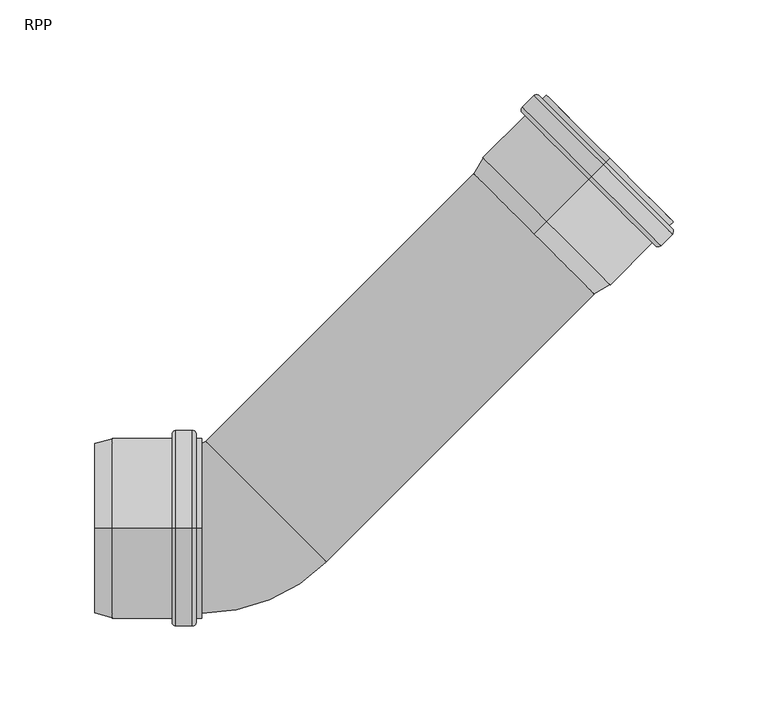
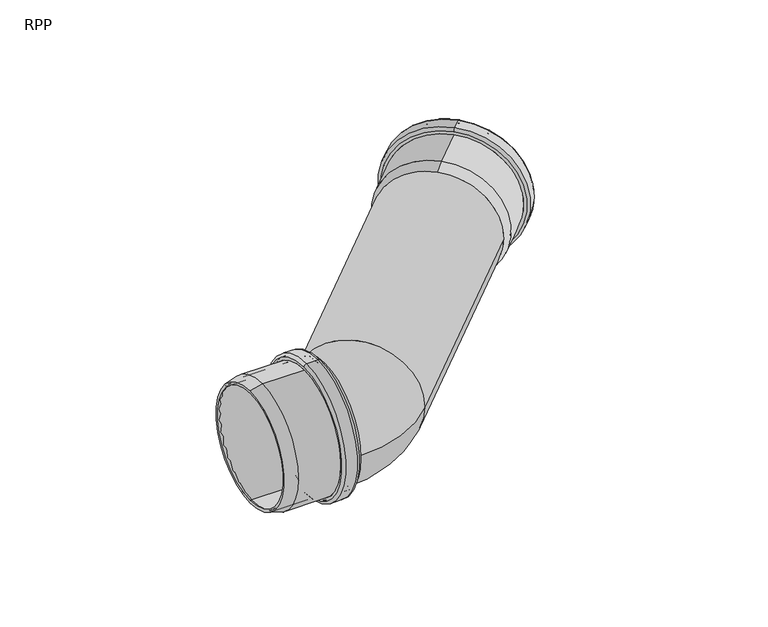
"""IFC4 building model written with IfcOpenShell, lengths in millimetres: pipe fitting geometry, RAUPIANO PLUS Deflection Bend : RPP."""

from ifc_helpers import new_model, si_unit, point, frame, origin, place, context, project, spatial, polyline, circle_curve, ellipse_curve, trimmed, source, transform, mapped, element, save
from ifc_brep_helpers import plane_surface, cylinder_surface, revolved_surface, advanced_brep


def rpp_1b942135(model_context):
    return source(origin(), model_context, "Body", "AdvancedBrep", [
        advanced_brep(
        [(-33.282251, 0.0, 45.3), (-33.282251, 0.0, -45.3), (-66.7624885, 0.0, -45.3), (-66.7624885, 0.0, 45.3), (-32.782251, 0.0, 49.7), (-32.782251, 0.0, -49.7), (-33.282251, 0.0, -49.2), (-33.282251, 0.0, 49.2), (-25.482251, 0.0, 49.7), (-25.482251, 0.0, -49.7), (-24.982251, 0.0, 49.2), (-24.982251, 0.0, -49.2), (-19.882251, 0.0, 45.3), (-19.882251, 0.0, -45.3), (-24.982251, 0.0, -45.3), (-24.982251, 0.0, 45.3), (-22.782251, 0.0, 47.5), (-22.782251, 0.0, -47.5), (-19.882251, 0.0, -47.5), (-19.882251, 0.0, 47.5), (-24.782251, 0.0, 51.9), (-24.782251, 0.0, -51.9), (-22.782251, 0.0, -49.9), (-22.782251, 0.0, 49.9), (-33.482251, 0.0, 51.9), (-33.482251, 0.0, -51.9), (-35.482251, 0.0, 49.9), (-35.482251, 0.0, -49.9), (-67.052124, 0.0, 47.5), (-67.052124, 0.0, -47.5), (-35.482251, 0.0, -47.5), (-35.482251, 0.0, 47.5), (-76.382251, 0.0, 45.0), (-76.382251, 0.0, -45.0), (-76.382251, 0.0, -42.7223924), (-76.382251, 0.0, 42.7223924)],
        [
            (0, 1, circle_curve(frame((-33.282251, 0.0, 0.0), z_axis=(1.0, 0.0, 0.0), x_axis=(0.0, 0.0, -1.0)), 45.3)),
            (1, 2),
            (2, 3, circle_curve(frame((-66.7624885, 0.0, 0.0), z_axis=(-1.0, 0.0, 0.0), x_axis=(0.0, 0.0, -1.0)), 45.3)),
            (3, 0),
            (4, 5, circle_curve(frame((-32.782251, 0.0, 0.0), z_axis=(1.0, 0.0, 0.0), x_axis=(0.0, 0.0, -1.0)), 49.7)),
            (5, 6, circle_curve(frame((-32.782251, 0.0, -49.2), z_axis=(0.0, 1.0, 0.0), x_axis=(0.0, 0.0, 1.0)), 0.5)),
            (6, 7, circle_curve(frame((-33.282251, 0.0, 0.0), z_axis=(-1.0, 0.0, 0.0), x_axis=(0.0, 0.0, -1.0)), 49.2)),
            (7, 4, circle_curve(frame((-32.782251, 0.0, 49.2), z_axis=(0.0, 1.0, 0.0), x_axis=(0.0, 0.0, -1.0)), 0.5)),
            (8, 9, circle_curve(frame((-25.482251, 0.0, 0.0), z_axis=(1.0, 0.0, 0.0), x_axis=(0.0, 0.0, -1.0)), 49.7)),
            (9, 5),
            (4, 8),
            (10, 11, circle_curve(frame((-24.982251, 0.0, 0.0), z_axis=(1.0, 0.0, 0.0), x_axis=(0.0, 0.0, -1.0)), 49.2)),
            (11, 9, circle_curve(frame((-25.482251, 0.0, -49.2), z_axis=(0.0, 1.0, 0.0), x_axis=(0.0, 0.0, 1.0)), 0.5)),
            (8, 10, circle_curve(frame((-25.482251, 0.0, 49.2), z_axis=(0.0, 1.0, 0.0), x_axis=(0.0, 0.0, -1.0)), 0.5)),
            (12, 13, circle_curve(frame((-19.882251, 0.0, 0.0), z_axis=(1.0, 0.0, 0.0), x_axis=(0.0, 0.0, -1.0)), 45.3)),
            (13, 14),
            (14, 15, circle_curve(frame((-24.982251, 0.0, 0.0), z_axis=(-1.0, 0.0, 0.0), x_axis=(0.0, 0.0, -1.0)), 45.3)),
            (15, 12),
            (16, 17, circle_curve(frame((-22.782251, 0.0, 0.0), z_axis=(1.0, 0.0, 0.0), x_axis=(0.0, 0.0, -1.0)), 47.5)),
            (17, 18),
            (18, 19, circle_curve(frame((-19.882251, 0.0, 0.0), z_axis=(-1.0, 0.0, 0.0), x_axis=(0.0, 0.0, -1.0)), 47.5)),
            (19, 16),
            (20, 21, circle_curve(frame((-24.782251, 0.0, 0.0), z_axis=(1.0, 0.0, 0.0), x_axis=(0.0, 0.0, -1.0)), 51.9)),
            (21, 22, circle_curve(frame((-24.782251, 0.0, -49.9), z_axis=(0.0, -1.0, 0.0), x_axis=(0.0, 0.0, 1.0)), 2.0)),
            (22, 23, circle_curve(frame((-22.782251, 0.0, 0.0), z_axis=(-1.0, 0.0, 0.0), x_axis=(0.0, 0.0, -1.0)), 49.9)),
            (23, 20, circle_curve(frame((-24.782251, 0.0, 49.9), z_axis=(0.0, -1.0, 0.0), x_axis=(0.0, 0.0, -1.0)), 2.0)),
            (24, 25, circle_curve(frame((-33.482251, 0.0, 0.0), z_axis=(1.0, 0.0, 0.0), x_axis=(0.0, 0.0, -1.0)), 51.9)),
            (25, 21),
            (20, 24),
            (26, 27, circle_curve(frame((-35.482251, 0.0, 0.0), z_axis=(1.0, 0.0, 0.0), x_axis=(0.0, 0.0, -1.0)), 49.9)),
            (27, 25, circle_curve(frame((-33.482251, 0.0, -49.9), z_axis=(0.0, -1.0, 0.0), x_axis=(0.0, 0.0, 1.0)), 2.0)),
            (24, 26, circle_curve(frame((-33.482251, 0.0, 49.9), z_axis=(0.0, -1.0, 0.0), x_axis=(0.0, 0.0, -1.0)), 2.0)),
            (28, 29, circle_curve(frame((-67.052124, 0.0, 0.0), z_axis=(1.0, 0.0, 0.0), x_axis=(0.0, 0.0, -1.0)), 47.5)),
            (29, 30),
            (30, 31, circle_curve(frame((-35.482251, 0.0, 0.0), z_axis=(-1.0, 0.0, 0.0), x_axis=(0.0, 0.0, -1.0)), 47.5)),
            (31, 28),
            (32, 33, circle_curve(frame((-76.382251, 0.0, 0.0), z_axis=(1.0, 0.0, 0.0), x_axis=(0.0, 0.0, -1.0)), 45.0)),
            (33, 29),
            (28, 32),
            (2, 34),
            (34, 35, circle_curve(frame((-76.382251, 0.0, 0.0), z_axis=(-1.0, 0.0, 0.0), x_axis=(0.0, 0.0, -1.0)), 42.7223924)),
            (35, 3),
            (1, 0, circle_curve(frame((-33.282251, 0.0, 0.0), z_axis=(1.0, 0.0, 0.0), x_axis=(0.0, 0.0, 1.0)), 45.3)),
            (3, 2, circle_curve(frame((-66.7624885, 0.0, 0.0), z_axis=(-1.0, 0.0, 0.0), x_axis=(0.0, 0.0, 1.0)), 45.3)),
            (6, 7, circle_curve(frame((-33.282251, 0.0, 0.0), z_axis=(1.0, 0.0, 0.0), x_axis=(0.0, 0.0, 1.0)), 49.2)),
            (5, 4, circle_curve(frame((-32.782251, 0.0, 0.0), z_axis=(1.0, 0.0, 0.0), x_axis=(0.0, 0.0, 1.0)), 49.7)),
            (9, 8, circle_curve(frame((-25.482251, 0.0, 0.0), z_axis=(1.0, 0.0, 0.0), x_axis=(0.0, 0.0, 1.0)), 49.7)),
            (11, 10, circle_curve(frame((-24.982251, 0.0, 0.0), z_axis=(1.0, 0.0, 0.0), x_axis=(0.0, 0.0, 1.0)), 49.2)),
            (14, 15, circle_curve(frame((-24.982251, 0.0, 0.0), z_axis=(1.0, 0.0, 0.0), x_axis=(0.0, 0.0, 1.0)), 45.3)),
            (13, 12, circle_curve(frame((-19.882251, 0.0, 0.0), z_axis=(1.0, 0.0, 0.0), x_axis=(0.0, 0.0, 1.0)), 45.3)),
            (18, 19, circle_curve(frame((-19.882251, 0.0, 0.0), z_axis=(1.0, 0.0, 0.0), x_axis=(0.0, 0.0, 1.0)), 47.5)),
            (17, 16, circle_curve(frame((-22.782251, 0.0, 0.0), z_axis=(1.0, 0.0, 0.0), x_axis=(0.0, 0.0, 1.0)), 47.5)),
            (22, 23, circle_curve(frame((-22.782251, 0.0, 0.0), z_axis=(1.0, 0.0, 0.0), x_axis=(0.0, 0.0, 1.0)), 49.9)),
            (21, 20, circle_curve(frame((-24.782251, 0.0, 0.0), z_axis=(1.0, 0.0, 0.0), x_axis=(0.0, 0.0, 1.0)), 51.9)),
            (25, 24, circle_curve(frame((-33.482251, 0.0, 0.0), z_axis=(1.0, 0.0, 0.0), x_axis=(0.0, 0.0, 1.0)), 51.9)),
            (27, 26, circle_curve(frame((-35.482251, 0.0, 0.0), z_axis=(1.0, 0.0, 0.0), x_axis=(0.0, 0.0, 1.0)), 49.9)),
            (30, 31, circle_curve(frame((-35.482251, 0.0, 0.0), z_axis=(1.0, 0.0, 0.0), x_axis=(0.0, 0.0, 1.0)), 47.5)),
            (29, 28, circle_curve(frame((-67.052124, 0.0, 0.0), z_axis=(1.0, 0.0, 0.0), x_axis=(0.0, 0.0, 1.0)), 47.5)),
            (33, 32, circle_curve(frame((-76.382251, 0.0, 0.0), z_axis=(1.0, 0.0, 0.0), x_axis=(0.0, 0.0, 1.0)), 45.0)),
            (34, 35, circle_curve(frame((-76.382251, 0.0, 0.0), z_axis=(1.0, 0.0, 0.0), x_axis=(0.0, 0.0, 1.0)), 42.7223924)),
        ],
        [
            revolved_surface(polyline([(-66.7624885, 0.0, -45.3), (-33.282251, 0.0, -45.3)]), (-76.382251, 0.0, 0.0), (-1.0, 0.0, 0.0)),
            revolved_surface(trimmed(ellipse_curve(frame((-32.782251, 0.0, -49.2), z_axis=(0.0, -1.0, 0.0), x_axis=(0.0, 0.0, 1.0)), 0.5, 0.5), [point((-33.282251, 0.0, -49.2))], [point((-32.782251, 0.0, -49.7))], True, "CARTESIAN"), (-76.382251, 0.0, 0.0), (-1.0, 0.0, 0.0)),
            revolved_surface(polyline([(-32.782251, 0.0, -49.7), (-25.482251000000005, 0.0, -49.7)]), (-76.382251, 0.0, 0.0), (-1.0, 0.0, 0.0)),
            revolved_surface(trimmed(ellipse_curve(frame((-25.482251, 0.0, -49.2), z_axis=(0.0, -1.0, 0.0), x_axis=(0.0, 0.0, 1.0)), 0.5, 0.5), [point((-25.482251, 0.0, -49.7))], [point((-24.982251, 0.0, -49.2))], True, "CARTESIAN"), (-76.382251, 0.0, 0.0), (-1.0, 0.0, 0.0)),
            revolved_surface(polyline([(-24.982251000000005, 0.0, -45.3), (-19.882250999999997, 0.0, -45.3)]), (-76.382251, 0.0, 0.0), (-1.0, 0.0, 0.0)),
            cylinder_surface(frame((-76.382251, 0.0, 0.0), z_axis=(-1.0, 0.0, 0.0), x_axis=(0.0, 0.0, -1.0)), 47.5),
            revolved_surface(trimmed(ellipse_curve(frame((-24.782251, 0.0, -49.9), z_axis=(0.0, 1.0, 0.0), x_axis=(0.0, 0.0, 1.0)), 2.0, 2.0), [point((-22.782251, 0.0, -49.9))], [point((-24.782251, 0.0, -51.9))], True, "CARTESIAN"), (-76.382251, 0.0, 0.0), (-1.0, 0.0, 0.0)),
            cylinder_surface(frame((-76.382251, 0.0, 0.0), z_axis=(-1.0, 0.0, 0.0), x_axis=(0.0, 0.0, -1.0)), 51.9),
            revolved_surface(trimmed(ellipse_curve(frame((-33.482251, 0.0, -49.9), z_axis=(0.0, 1.0, 0.0), x_axis=(0.0, 0.0, 1.0)), 2.0, 2.0), [point((-33.482251, 0.0, -51.9))], [point((-35.482251, 0.0, -49.9))], True, "CARTESIAN"), (-76.382251, 0.0, 0.0), (-1.0, 0.0, 0.0)),
            revolved_surface(polyline([(-67.052124, 0.0, -47.5), (-76.382251, 0.0, -45.0)]), (-76.382251, 0.0, 0.0), (-1.0, 0.0, 0.0)),
            revolved_surface(polyline([(-76.382251, 0.0, -42.7223924), (-66.7624885, 0.0, -45.3)]), (-76.382251, 0.0, 0.0), (-1.0, 0.0, 0.0)),
            revolved_surface(polyline([(-66.7624885, 0.0, 45.3), (-33.282251, 0.0, 45.3)]), (-76.382251, 0.0, 0.0), (-1.0, 0.0, 0.0)),
            plane_surface(frame((-33.282251, 0.0, 0.0), z_axis=(1.0, 0.0, 0.0), x_axis=(0.0, 0.0, 1.0))),
            revolved_surface(trimmed(ellipse_curve(frame((-32.782251, 0.0, 49.2), z_axis=(0.0, 1.0, 0.0), x_axis=(0.0, 0.0, -1.0)), 0.5, 0.5), [point((-33.282251, 0.0, 49.2))], [point((-32.782251, 0.0, 49.7))], True, "CARTESIAN"), (-76.382251, 0.0, 0.0), (-1.0, 0.0, 0.0)),
            revolved_surface(polyline([(-32.782251, 0.0, 49.7), (-25.482251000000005, 0.0, 49.7)]), (-76.382251, 0.0, 0.0), (-1.0, 0.0, 0.0)),
            revolved_surface(trimmed(ellipse_curve(frame((-25.482251, 0.0, 49.2), z_axis=(0.0, 1.0, 0.0), x_axis=(0.0, 0.0, -1.0)), 0.5, 0.5), [point((-25.482251, 0.0, 49.7))], [point((-24.982251, 0.0, 49.2))], True, "CARTESIAN"), (-76.382251, 0.0, 0.0), (-1.0, 0.0, 0.0)),
            plane_surface(frame((-24.982251, 0.0, 0.0), z_axis=(-1.0, 0.0, 0.0), x_axis=(0.0, 0.0, 1.0))),
            revolved_surface(polyline([(-24.982251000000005, 0.0, 45.3), (-19.882250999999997, 0.0, 45.3)]), (-76.382251, 0.0, 0.0), (-1.0, 0.0, 0.0)),
            plane_surface(frame((-19.882251, 0.0, 0.0), z_axis=(1.0, 0.0, 0.0), x_axis=(0.0, 0.0, 1.0))),
            cylinder_surface(frame((-76.382251, 0.0, 0.0), z_axis=(-1.0, 0.0, 0.0), x_axis=(0.0, 0.0, 1.0)), 47.5),
            plane_surface(frame((-22.782251, 0.0, 0.0), z_axis=(1.0, 0.0, 0.0), x_axis=(0.0, 0.0, 1.0))),
            revolved_surface(trimmed(ellipse_curve(frame((-24.782251, 0.0, 49.9), z_axis=(0.0, -1.0, 0.0), x_axis=(0.0, 0.0, -1.0)), 2.0, 2.0), [point((-22.782251, 0.0, 49.9))], [point((-24.782251, 0.0, 51.9))], True, "CARTESIAN"), (-76.382251, 0.0, 0.0), (-1.0, 0.0, 0.0)),
            cylinder_surface(frame((-76.382251, 0.0, 0.0), z_axis=(-1.0, 0.0, 0.0), x_axis=(0.0, 0.0, 1.0)), 51.9),
            revolved_surface(trimmed(ellipse_curve(frame((-33.482251, 0.0, 49.9), z_axis=(0.0, -1.0, 0.0), x_axis=(0.0, 0.0, -1.0)), 2.0, 2.0), [point((-33.482251, 0.0, 51.9))], [point((-35.482251, 0.0, 49.9))], True, "CARTESIAN"), (-76.382251, 0.0, 0.0), (-1.0, 0.0, 0.0)),
            plane_surface(frame((-35.482251, 0.0, 0.0), z_axis=(-1.0, 0.0, 0.0), x_axis=(0.0, 0.0, 1.0))),
            revolved_surface(polyline([(-67.052124, 0.0, 47.5), (-76.382251, 0.0, 45.0)]), (-76.382251, 0.0, 0.0), (-1.0, 0.0, 0.0)),
            plane_surface(frame((-76.382251, 0.0, 0.0), z_axis=(-1.0, 0.0, 0.0), x_axis=(0.0, 0.0, 1.0))),
            revolved_surface(polyline([(-76.382251, 0.0, 42.7223924), (-66.7624885, 0.0, 45.3)]), (-76.382251, 0.0, 0.0), (-1.0, 0.0, 0.0)),
        ],
        [
            (0, [[1, 2, 3, 4]]),
            (1, [[5, 6, 7, 8]]),
            (2, [[9, 10, -5, 11]]),
            (3, [[12, 13, -9, 14]]),
            (4, [[15, 16, 17, 18]]),
            (5, [[19, 20, 21, 22]]),
            (6, [[23, 24, 25, 26]]),
            (7, [[27, 28, -23, 29]]),
            (8, [[30, 31, -27, 32]]),
            (5, [[33, 34, 35, 36]]),
            (9, [[37, 38, -33, 39]]),
            (10, [[-3, 40, 41, 42]]),
            (11, [[43, -4, 44, -2]]),
            (12, [[45, -7], [-43, -1]]),
            (13, [[46, -8, -45, -6]]),
            (14, [[47, -11, -46, -10]]),
            (15, [[48, -14, -47, -13]]),
            (16, [[-48, -12], [49, -17]]),
            (17, [[50, -18, -49, -16]]),
            (18, [[51, -21], [-50, -15]]),
            (19, [[52, -22, -51, -20]]),
            (20, [[53, -25], [-52, -19]]),
            (21, [[54, -26, -53, -24]]),
            (22, [[55, -29, -54, -28]]),
            (23, [[56, -32, -55, -31]]),
            (24, [[-56, -30], [57, -35]]),
            (19, [[58, -36, -57, -34]]),
            (25, [[59, -39, -58, -38]]),
            (26, [[-59, -37], [60, -41]]),
            (27, [[-44, -42, -60, -40]]),
        ],
    ),
        advanced_brep(
        [(-19.882251, 0.0, -42.8), (-76.382251, 0.0, -42.8), (-76.382251, 0.0, 42.8), (-19.882251, 0.0, 42.8), (-19.882251, -42.8, 0.0), (-72.6502002, 0.0, 45.0), (-72.6502002, 0.0, -45.0), (-19.882251, 0.0, -45.0), (-19.882251, -45.0, 0.0), (-19.882251, 0.0, 45.0), (-76.382251, 0.0, 44.0), (-76.382251, 0.0, -44.0), (-19.882251, 42.8, 0.0), (-19.882251, 45.0, 0.0), (-16.2052957, 44.3230447, 0.0), (44.3230447, -16.2052957, 0.0), (-17.7609307, 45.8786797, 0.0), (45.8786797, -17.7609307, 0.0), (14.0588745, 14.0588745, 45.0), (14.0588745, 14.0588745, -45.0), (187.3000359, 123.6604256, 0.0), (123.6604256, 187.3000359, 0.0), (185.744401, 125.2160605, 0.0), (125.2160605, 185.744401, 0.0)],
        [
            (0, 1),
            (1, 2, circle_curve(frame((-76.382251, 0.0, 0.0), z_axis=(-1.0, 0.0, 0.0), x_axis=(0.0, 0.0, -1.0)), 42.8)),
            (2, 3),
            (3, 4, circle_curve(frame((-19.882251, 0.0, 0.0), z_axis=(1.0, 0.0, 0.0), x_axis=(0.0, 0.0, -1.0)), 42.8)),
            (4, 0, circle_curve(frame((-19.882251, 0.0, 0.0), z_axis=(1.0, 0.0, 0.0), x_axis=(0.0, 0.0, -1.0)), 42.8)),
            (5, 6, circle_curve(frame((-72.6502002, 0.0, 0.0), z_axis=(1.0, 0.0, 0.0), x_axis=(0.0, 0.0, -1.0)), 45.0)),
            (6, 7),
            (7, 8, circle_curve(frame((-19.882251, 0.0, 0.0), z_axis=(-1.0, 0.0, 0.0), x_axis=(0.0, 0.0, -1.0)), 45.0)),
            (8, 9, circle_curve(frame((-19.882251, 0.0, 0.0), z_axis=(-1.0, 0.0, 0.0), x_axis=(0.0, 0.0, -1.0)), 45.0)),
            (9, 5),
            (5, 10),
            (10, 11, circle_curve(frame((-76.382251, 0.0, 0.0), z_axis=(1.0, 0.0, 0.0), x_axis=(0.0, 0.0, -1.0)), 44.0)),
            (11, 6),
            (0, 12, circle_curve(frame((-19.882251, 0.0, 0.0), z_axis=(1.0, 0.0, 0.0), x_axis=(0.0, 0.0, 1.0)), 42.8)),
            (12, 3, circle_curve(frame((-19.882251, 0.0, 0.0), z_axis=(1.0, 0.0, 0.0), x_axis=(0.0, 0.0, 1.0)), 42.8)),
            (2, 1, circle_curve(frame((-76.382251, 0.0, 0.0), z_axis=(-1.0, 0.0, 0.0), x_axis=(0.0, 0.0, 1.0)), 42.8)),
            (6, 5, circle_curve(frame((-72.6502002, 0.0, 0.0), z_axis=(1.0, 0.0, 0.0), x_axis=(0.0, 0.0, 1.0)), 45.0)),
            (9, 13, circle_curve(frame((-19.882251, 0.0, 0.0), z_axis=(-1.0, 0.0, 0.0), x_axis=(0.0, 0.0, 1.0)), 45.0)),
            (13, 7, circle_curve(frame((-19.882251, 0.0, 0.0), z_axis=(-1.0, 0.0, 0.0), x_axis=(0.0, 0.0, 1.0)), 45.0)),
            (11, 10, circle_curve(frame((-76.382251, 0.0, 0.0), z_axis=(1.0, 0.0, 0.0), x_axis=(0.0, 0.0, 1.0)), 44.0)),
            (14, 12, circle_curve(frame((-19.882251, 48.0, 0.0), z_axis=(0.0, 0.0, -1.0), x_axis=(0.0, -1.0, 0.0)), 5.2)),
            (4, 15, circle_curve(frame((-19.882251, 48.0, 0.0), z_axis=(0.0, 0.0, 1.0), x_axis=(0.0, -1.0, 0.0)), 90.8)),
            (15, 14, circle_curve(frame((14.0588745, 14.0588745, 0.0), z_axis=(0.7071067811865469, 0.7071067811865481, 0.0), x_axis=(-0.7071067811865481, 0.7071067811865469, 0.0)), 42.8)),
            (14, 15, circle_curve(frame((14.0588745, 14.0588745, 0.0), z_axis=(0.7071067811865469, 0.7071067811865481, 0.0), x_axis=(-0.7071067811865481, 0.7071067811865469, 0.0)), 42.8)),
            (16, 13, circle_curve(frame((-19.882251, 48.0, 0.0), z_axis=(0.0, 0.0, -1.0), x_axis=(0.0, -1.0, 0.0)), 3.0)),
            (8, 17, circle_curve(frame((-19.882251, 48.0, 0.0), z_axis=(0.0, 0.0, 1.0), x_axis=(0.0, -1.0, 0.0)), 93.0)),
            (17, 18, circle_curve(frame((14.0588745, 14.0588745, 0.0), z_axis=(-0.7071067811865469, -0.7071067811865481, 0.0), x_axis=(-0.7071067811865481, 0.7071067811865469, 0.0)), 45.0)),
            (18, 16, circle_curve(frame((14.0588745, 14.0588745, 0.0), z_axis=(-0.7071067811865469, -0.7071067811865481, 0.0), x_axis=(-0.7071067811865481, 0.7071067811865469, 0.0)), 45.0)),
            (16, 19, circle_curve(frame((14.0588745, 14.0588745, 0.0), z_axis=(-0.7071067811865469, -0.7071067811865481, 0.0), x_axis=(-0.7071067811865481, 0.7071067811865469, 0.0)), 45.0)),
            (19, 17, circle_curve(frame((14.0588745, 14.0588745, 0.0), z_axis=(-0.707106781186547, -0.707106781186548, 0.0), x_axis=(-0.707106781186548, 0.707106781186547, 0.0)), 45.0)),
            (20, 21, circle_curve(frame((155.4802307, 155.4802307, 0.0), z_axis=(0.707106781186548, 0.707106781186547, 0.0), x_axis=(-0.707106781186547, 0.707106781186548, 0.0)), 45.0)),
            (21, 20, circle_curve(frame((155.4802307, 155.4802307, 0.0), z_axis=(0.707106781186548, 0.707106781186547, 0.0), x_axis=(-0.707106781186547, 0.707106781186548, 0.0)), 45.0)),
            (22, 23, circle_curve(frame((155.4802307, 155.4802307, 0.0), z_axis=(-0.707106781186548, -0.707106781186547, 0.0), x_axis=(-0.707106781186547, 0.707106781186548, 0.0)), 42.8)),
            (23, 22, circle_curve(frame((155.4802307, 155.4802307, 0.0), z_axis=(-0.707106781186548, -0.707106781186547, 0.0), x_axis=(-0.707106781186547, 0.707106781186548, 0.0)), 42.8)),
            (23, 14),
            (15, 22),
            (21, 16),
            (17, 20),
        ],
        [
            revolved_surface(polyline([(-76.382251, 0.0, -42.8), (-19.882251, 0.0, -42.8)]), (-19.882251, 0.0, 0.0), (-1.0, 0.0, 0.0)),
            cylinder_surface(frame((-19.882251, 0.0, 0.0), z_axis=(-1.0, 0.0, 0.0), x_axis=(0.0, 0.0, -1.0)), 45.0),
            revolved_surface(polyline([(-72.6502002, 0.0, -45.0), (-76.382251, 0.0, -44.0)]), (-19.882251, 0.0, 0.0), (-1.0, 0.0, 0.0)),
            revolved_surface(polyline([(-76.382251, 0.0, 42.8), (-19.882251, 0.0, 42.8)]), (-19.882251, 0.0, 0.0), (-1.0, 0.0, 0.0)),
            cylinder_surface(frame((-19.882251, 0.0, 0.0), z_axis=(-1.0, 0.0, 0.0), x_axis=(0.0, 0.0, 1.0)), 45.0),
            revolved_surface(polyline([(-72.6502002, 0.0, 45.0), (-76.382251, 0.0, 44.0)]), (-19.882251, 0.0, 0.0), (-1.0, 0.0, 0.0)),
            plane_surface(frame((-76.382251, 0.0, 0.0), z_axis=(-1.0, 0.0, 0.0), x_axis=(0.0, 0.0, 1.0))),
            revolved_surface(trimmed(ellipse_curve(frame((-19.882251, 0.0, 0.0), z_axis=(1.0, 0.0, 0.0), x_axis=(0.0, 1.0, 0.0)), 42.8, 42.8), [point((-19.882251, -42.8, 0.0))], [point((-19.882251, 42.8, 0.0))], True, "CARTESIAN"), (-19.882251, 48.0, 0.0), (0.0, 0.0, 1.0)),
            revolved_surface(trimmed(ellipse_curve(frame((-19.882251, 0.0, 0.0), z_axis=(1.0, 0.0, 0.0), x_axis=(0.0, 1.0, 0.0)), 42.8, 42.8), [point((-19.882251, 42.8, 0.0))], [point((-19.882251, -42.8, 0.0))], True, "CARTESIAN"), (-19.882251, 48.0, 0.0), (0.0, 0.0, 1.0)),
            revolved_surface(trimmed(ellipse_curve(frame((-19.882251, 0.0, 0.0), z_axis=(-1.0, 0.0, 0.0), x_axis=(0.0, 1.0, 0.0)), 45.0, 45.0), [point((-19.882251, -45.0, 0.0))], [point((-19.882251, 45.0, 0.0))], True, "CARTESIAN"), (-19.882251, 48.0, 0.0), (0.0, 0.0, 1.0)),
            revolved_surface(trimmed(ellipse_curve(frame((-19.882251, 0.0, 0.0), z_axis=(-1.0, 0.0, 0.0), x_axis=(0.0, 1.0, 0.0)), 45.0, 45.0), [point((-19.882251, 45.0, 0.0))], [point((-19.882251, -45.0, 0.0))], True, "CARTESIAN"), (-19.882251, 48.0, 0.0), (0.0, 0.0, 1.0)),
            plane_surface(frame((155.4802307, 155.4802307, 0.0), z_axis=(0.707106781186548, 0.707106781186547, 0.0), x_axis=(0.0, 0.0, 1.0))),
            revolved_surface(polyline([(125.21606051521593, 185.74440098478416, 0.0), (-16.205295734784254, 44.323044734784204, 0.0)]), (14.0588745, 14.0588745, 0.0), (0.707106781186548, 0.707106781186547, 0.0)),
            cylinder_surface(frame((14.0588745, 14.0588745, 0.0), z_axis=(-0.707106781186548, -0.707106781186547, 0.0), x_axis=(-0.707106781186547, 0.707106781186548, 0.0)), 45.0),
        ],
        [
            (0, [[1, 2, 3, 4, 5]]),
            (1, [[6, 7, 8, 9, 10]]),
            (2, [[-6, 11, 12, 13]]),
            (3, [[-1, 14, 15, -3, 16]]),
            (4, [[-7, 17, -10, 18, 19]]),
            (5, [[-13, 20, -11, -17]]),
            (6, [[-12, -20], [-2, -16]]),
            (7, [[21, -14, -5, 22, 23]]),
            (8, [[-21, 24, -22, -4, -15]]),
            (9, [[25, -18, -9, 26, 27, 28]]),
            (10, [[-25, 29, 30, -26, -8, -19]]),
            (11, [[31, 32], [33, 34]]),
            (12, [[-34, 35, -23, 36]]),
            (12, [[-33, -36, -24, -35]]),
            (13, [[-32, 37, -28, -27, 38]]),
            (13, [[-31, -38, -30, -29, -37]]),
        ],
    ),
        advanced_brep(
        [(155.4802307, 155.4802307, 42.7223924), (155.4802307, 155.4802307, -42.7223924), (162.28243, 162.28243, -45.3), (162.28243, 162.28243, 45.3), (162.0776268, 162.0776268, 47.5), (162.0776268, 162.0776268, -47.5), (155.4802307, 155.4802307, -45.0), (155.4802307, 155.4802307, 45.0), (184.4008981, 184.4008981, 47.5), (184.4008981, 184.4008981, -47.5), (185.8151117, 185.8151117, 51.9), (185.8151117, 185.8151117, -51.9), (184.4008981, 184.4008981, -49.9), (184.4008981, 184.4008981, 49.9), (191.9669406, 191.9669406, 51.9), (191.9669406, 191.9669406, -51.9), (193.3811542, 193.3811542, 49.9), (193.3811542, 193.3811542, -49.9), (195.4317639, 195.4317639, 47.5), (195.4317639, 195.4317639, -47.5), (193.3811542, 193.3811542, -47.5), (193.3811542, 193.3811542, 47.5), (191.8255193, 191.8255193, 45.3), (191.8255193, 191.8255193, -45.3), (195.4317639, 195.4317639, -45.3), (195.4317639, 195.4317639, 45.3), (191.4719659, 191.4719659, 49.7), (191.4719659, 191.4719659, -49.7), (191.8255193, 191.8255193, -49.2), (191.8255193, 191.8255193, 49.2), (186.3100864, 186.3100864, 49.7), (186.3100864, 186.3100864, -49.7), (185.956533, 185.956533, 49.2), (185.956533, 185.956533, -49.2), (185.956533, 185.956533, -45.3), (185.956533, 185.956533, 45.3)],
        [
            (0, 1, circle_curve(frame((155.4802307, 155.4802307, 0.0), z_axis=(-0.7071067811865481, -0.707106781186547, 0.0), x_axis=(0.0, 0.0, -1.0)), 42.7223924)),
            (1, 2),
            (2, 3, circle_curve(frame((162.28243, 162.28243, 0.0), z_axis=(0.7071067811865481, 0.707106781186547, 0.0), x_axis=(0.0, 0.0, -1.0)), 45.3)),
            (3, 0),
            (4, 5, circle_curve(frame((162.0776268, 162.0776268, 0.0), z_axis=(-0.7071067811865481, -0.707106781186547, 0.0), x_axis=(0.0, 0.0, -1.0)), 47.5)),
            (5, 6),
            (6, 7, circle_curve(frame((155.4802307, 155.4802307, 0.0), z_axis=(0.7071067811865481, 0.707106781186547, 0.0), x_axis=(0.0, 0.0, -1.0)), 45.0)),
            (7, 4),
            (8, 9, circle_curve(frame((184.4008981, 184.4008981, 0.0), z_axis=(-0.7071067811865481, -0.707106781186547, 0.0), x_axis=(0.0, 0.0, -1.0)), 47.5)),
            (9, 5),
            (4, 8),
            (10, 11, circle_curve(frame((185.8151117, 185.8151117, 0.0), z_axis=(-0.7071067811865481, -0.707106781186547, 0.0), x_axis=(0.0, 0.0, -1.0)), 51.9)),
            (11, 12, circle_curve(frame((185.8151117, 185.8151117, -49.9), z_axis=(-0.7071067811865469, 0.7071067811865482, 0.0), x_axis=(0.0, 0.0, 1.0)), 2.0)),
            (12, 13, circle_curve(frame((184.4008981, 184.4008981, 0.0), z_axis=(0.7071067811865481, 0.707106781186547, 0.0), x_axis=(0.0, 0.0, -1.0)), 49.9)),
            (13, 10, circle_curve(frame((185.8151117, 185.8151117, 49.9), z_axis=(-0.7071067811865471, 0.707106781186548, 0.0), x_axis=(0.0, 0.0, -1.0)), 2.0)),
            (14, 15, circle_curve(frame((191.9669406, 191.9669406, 0.0), z_axis=(-0.7071067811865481, -0.707106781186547, 0.0), x_axis=(0.0, 0.0, -1.0)), 51.9)),
            (15, 11),
            (10, 14),
            (16, 17, circle_curve(frame((193.3811542, 193.3811542, 0.0), z_axis=(-0.7071067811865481, -0.707106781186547, 0.0), x_axis=(0.0, 0.0, -1.0)), 49.9)),
            (17, 15, circle_curve(frame((191.9669406, 191.9669406, -49.9), z_axis=(-0.7071067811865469, 0.7071067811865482, 0.0), x_axis=(0.0, 0.0, 1.0)), 2.0)),
            (14, 16, circle_curve(frame((191.9669406, 191.9669406, 49.9), z_axis=(-0.7071067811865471, 0.707106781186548, 0.0), x_axis=(0.0, 0.0, -1.0)), 2.0)),
            (18, 19, circle_curve(frame((195.4317639, 195.4317639, 0.0), z_axis=(-0.7071067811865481, -0.707106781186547, 0.0), x_axis=(0.0, 0.0, -1.0)), 47.5)),
            (19, 20),
            (20, 21, circle_curve(frame((193.3811542, 193.3811542, 0.0), z_axis=(0.7071067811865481, 0.707106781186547, 0.0), x_axis=(0.0, 0.0, -1.0)), 47.5)),
            (21, 18),
            (22, 23, circle_curve(frame((191.8255193, 191.8255193, 0.0), z_axis=(-0.7071067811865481, -0.707106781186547, 0.0), x_axis=(0.0, 0.0, -1.0)), 45.3)),
            (23, 24),
            (24, 25, circle_curve(frame((195.4317639, 195.4317639, 0.0), z_axis=(0.7071067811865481, 0.707106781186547, 0.0), x_axis=(0.0, 0.0, -1.0)), 45.3)),
            (25, 22),
            (26, 27, circle_curve(frame((191.4719659, 191.4719659, 0.0), z_axis=(-0.7071067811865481, -0.707106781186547, 0.0), x_axis=(0.0, 0.0, -1.0)), 49.7)),
            (27, 28, circle_curve(frame((191.4719659, 191.4719659, -49.2), z_axis=(0.7071067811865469, -0.7071067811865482, 0.0), x_axis=(0.0, 0.0, 1.0)), 0.5)),
            (28, 29, circle_curve(frame((191.8255193, 191.8255193, 0.0), z_axis=(0.7071067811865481, 0.707106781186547, 0.0), x_axis=(0.0, 0.0, -1.0)), 49.2)),
            (29, 26, circle_curve(frame((191.4719659, 191.4719659, 49.2), z_axis=(0.7071067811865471, -0.707106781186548, 0.0), x_axis=(0.0, 0.0, -1.0)), 0.5)),
            (30, 31, circle_curve(frame((186.3100864, 186.3100864, 0.0), z_axis=(-0.7071067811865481, -0.707106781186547, 0.0), x_axis=(0.0, 0.0, -1.0)), 49.7)),
            (31, 27),
            (26, 30),
            (32, 33, circle_curve(frame((185.956533, 185.956533, 0.0), z_axis=(-0.7071067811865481, -0.707106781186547, 0.0), x_axis=(0.0, 0.0, -1.0)), 49.2)),
            (33, 31, circle_curve(frame((186.3100864, 186.3100864, -49.2), z_axis=(0.7071067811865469, -0.7071067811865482, 0.0), x_axis=(0.0, 0.0, 1.0)), 0.5)),
            (30, 32, circle_curve(frame((186.3100864, 186.3100864, 49.2), z_axis=(0.7071067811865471, -0.707106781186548, 0.0), x_axis=(0.0, 0.0, -1.0)), 0.5)),
            (2, 34),
            (34, 35, circle_curve(frame((185.956533, 185.956533, 0.0), z_axis=(0.7071067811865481, 0.707106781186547, 0.0), x_axis=(0.0, 0.0, -1.0)), 45.3)),
            (35, 3),
            (1, 0, circle_curve(frame((155.4802307, 155.4802307, 0.0), z_axis=(-0.7071067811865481, -0.707106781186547, 0.0), x_axis=(0.0, 0.0, 1.0)), 42.7223924)),
            (3, 2, circle_curve(frame((162.28243, 162.28243, 0.0), z_axis=(0.7071067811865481, 0.707106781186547, 0.0), x_axis=(0.0, 0.0, 1.0)), 45.3)),
            (6, 7, circle_curve(frame((155.4802307, 155.4802307, 0.0), z_axis=(-0.7071067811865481, -0.707106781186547, 0.0), x_axis=(0.0, 0.0, 1.0)), 45.0)),
            (5, 4, circle_curve(frame((162.0776268, 162.0776268, 0.0), z_axis=(-0.7071067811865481, -0.707106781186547, 0.0), x_axis=(0.0, 0.0, 1.0)), 47.5)),
            (9, 8, circle_curve(frame((184.4008981, 184.4008981, 0.0), z_axis=(-0.7071067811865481, -0.707106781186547, 0.0), x_axis=(0.0, 0.0, 1.0)), 47.5)),
            (12, 13, circle_curve(frame((184.4008981, 184.4008981, 0.0), z_axis=(-0.7071067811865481, -0.707106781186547, 0.0), x_axis=(0.0, 0.0, 1.0)), 49.9)),
            (11, 10, circle_curve(frame((185.8151117, 185.8151117, 0.0), z_axis=(-0.7071067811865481, -0.707106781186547, 0.0), x_axis=(0.0, 0.0, 1.0)), 51.9)),
            (15, 14, circle_curve(frame((191.9669406, 191.9669406, 0.0), z_axis=(-0.7071067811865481, -0.707106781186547, 0.0), x_axis=(0.0, 0.0, 1.0)), 51.9)),
            (17, 16, circle_curve(frame((193.3811542, 193.3811542, 0.0), z_axis=(-0.7071067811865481, -0.707106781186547, 0.0), x_axis=(0.0, 0.0, 1.0)), 49.9)),
            (20, 21, circle_curve(frame((193.3811542, 193.3811542, 0.0), z_axis=(-0.7071067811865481, -0.707106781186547, 0.0), x_axis=(0.0, 0.0, 1.0)), 47.5)),
            (19, 18, circle_curve(frame((195.4317639, 195.4317639, 0.0), z_axis=(-0.7071067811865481, -0.707106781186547, 0.0), x_axis=(0.0, 0.0, 1.0)), 47.5)),
            (24, 25, circle_curve(frame((195.4317639, 195.4317639, 0.0), z_axis=(-0.7071067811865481, -0.707106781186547, 0.0), x_axis=(0.0, 0.0, 1.0)), 45.3)),
            (23, 22, circle_curve(frame((191.8255193, 191.8255193, 0.0), z_axis=(-0.7071067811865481, -0.707106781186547, 0.0), x_axis=(0.0, 0.0, 1.0)), 45.3)),
            (28, 29, circle_curve(frame((191.8255193, 191.8255193, 0.0), z_axis=(-0.7071067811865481, -0.707106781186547, 0.0), x_axis=(0.0, 0.0, 1.0)), 49.2)),
            (27, 26, circle_curve(frame((191.4719659, 191.4719659, 0.0), z_axis=(-0.7071067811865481, -0.707106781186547, 0.0), x_axis=(0.0, 0.0, 1.0)), 49.7)),
            (31, 30, circle_curve(frame((186.3100864, 186.3100864, 0.0), z_axis=(-0.7071067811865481, -0.707106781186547, 0.0), x_axis=(0.0, 0.0, 1.0)), 49.7)),
            (33, 32, circle_curve(frame((185.956533, 185.956533, 0.0), z_axis=(-0.7071067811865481, -0.707106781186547, 0.0), x_axis=(0.0, 0.0, 1.0)), 49.2)),
            (34, 35, circle_curve(frame((185.956533, 185.956533, 0.0), z_axis=(-0.7071067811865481, -0.707106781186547, 0.0), x_axis=(0.0, 0.0, 1.0)), 45.3)),
        ],
        [
            revolved_surface(polyline([(162.28243, 162.28243, -45.3), (155.4802307, 155.4802307, -42.7223924)]), (155.4802307, 155.4802307, 0.0), (0.7071067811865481, 0.707106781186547, 0.0)),
            revolved_surface(polyline([(155.4802307, 155.4802307, -45.0), (162.0776268, 162.0776268, -47.5)]), (155.4802307, 155.4802307, 0.0), (0.7071067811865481, 0.707106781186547, 0.0)),
            cylinder_surface(frame((155.4802307, 155.4802307, 0.0), z_axis=(0.7071067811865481, 0.707106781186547, 0.0), x_axis=(0.0, 0.0, -1.0)), 47.5),
            revolved_surface(trimmed(ellipse_curve(frame((185.8151117, 185.8151117, -49.9), z_axis=(0.7071067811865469, -0.7071067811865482, 0.0), x_axis=(0.0, 0.0, 1.0)), 2.0, 2.0), [point((184.4008981, 184.4008981, -49.9))], [point((185.8151117, 185.8151117, -51.9))], True, "CARTESIAN"), (155.4802307, 155.4802307, 0.0), (0.7071067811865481, 0.707106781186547, 0.0)),
            cylinder_surface(frame((155.4802307, 155.4802307, 0.0), z_axis=(0.7071067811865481, 0.707106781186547, 0.0), x_axis=(0.0, 0.0, -1.0)), 51.9),
            revolved_surface(trimmed(ellipse_curve(frame((191.9669406, 191.9669406, -49.9), z_axis=(0.7071067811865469, -0.7071067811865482, 0.0), x_axis=(0.0, 0.0, 1.0)), 2.0, 2.0), [point((191.9669406, 191.9669406, -51.9))], [point((193.3811542, 193.3811542, -49.9))], True, "CARTESIAN"), (155.4802307, 155.4802307, 0.0), (0.7071067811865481, 0.707106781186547, 0.0)),
            revolved_surface(polyline([(195.43176390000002, 195.43176389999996, -45.3), (191.82551930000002, 191.82551929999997, -45.3)]), (155.4802307, 155.4802307, 0.0), (0.7071067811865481, 0.707106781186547, 0.0)),
            revolved_surface(trimmed(ellipse_curve(frame((191.4719659, 191.4719659, -49.2), z_axis=(-0.7071067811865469, 0.7071067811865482, 0.0), x_axis=(0.0, 0.0, 1.0)), 0.5, 0.5), [point((191.8255193, 191.8255193, -49.2))], [point((191.4719659, 191.4719659, -49.7))], True, "CARTESIAN"), (155.4802307, 155.4802307, 0.0), (0.7071067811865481, 0.707106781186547, 0.0)),
            revolved_surface(polyline([(191.47196590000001, 191.47196589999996, -49.7), (186.31008640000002, 186.31008639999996, -49.7)]), (155.4802307, 155.4802307, 0.0), (0.7071067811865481, 0.707106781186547, 0.0)),
            revolved_surface(trimmed(ellipse_curve(frame((186.3100864, 186.3100864, -49.2), z_axis=(-0.7071067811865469, 0.7071067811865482, 0.0), x_axis=(0.0, 0.0, 1.0)), 0.5, 0.5), [point((186.3100864, 186.3100864, -49.7))], [point((185.956533, 185.956533, -49.2))], True, "CARTESIAN"), (155.4802307, 155.4802307, 0.0), (0.7071067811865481, 0.707106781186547, 0.0)),
            revolved_surface(polyline([(185.95653300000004, 185.95653299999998, -45.3), (162.28243, 162.28243, -45.3)]), (155.4802307, 155.4802307, 0.0), (0.7071067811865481, 0.707106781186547, 0.0)),
            revolved_surface(polyline([(162.28243, 162.28243, 45.3), (155.4802307, 155.4802307, 42.7223924)]), (155.4802307, 155.4802307, 0.0), (0.7071067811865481, 0.707106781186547, 0.0)),
            plane_surface(frame((155.4802307, 155.4802307, 0.0), z_axis=(-0.7071067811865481, -0.707106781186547, 0.0), x_axis=(0.0, 0.0, 1.0))),
            revolved_surface(polyline([(155.4802307, 155.4802307, 45.0), (162.0776268, 162.0776268, 47.5)]), (155.4802307, 155.4802307, 0.0), (0.7071067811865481, 0.707106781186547, 0.0)),
            cylinder_surface(frame((155.4802307, 155.4802307, 0.0), z_axis=(0.7071067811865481, 0.707106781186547, 0.0), x_axis=(0.0, 0.0, 1.0)), 47.5),
            plane_surface(frame((184.4008981, 184.4008981, 0.0), z_axis=(-0.7071067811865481, -0.707106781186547, 0.0), x_axis=(0.0, 0.0, 1.0))),
            revolved_surface(trimmed(ellipse_curve(frame((185.8151117, 185.8151117, 49.9), z_axis=(-0.7071067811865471, 0.707106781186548, 0.0), x_axis=(0.0, 0.0, -1.0)), 2.0, 2.0), [point((184.4008981, 184.4008981, 49.9))], [point((185.8151117, 185.8151117, 51.9))], True, "CARTESIAN"), (155.4802307, 155.4802307, 0.0), (0.7071067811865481, 0.707106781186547, 0.0)),
            cylinder_surface(frame((155.4802307, 155.4802307, 0.0), z_axis=(0.7071067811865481, 0.707106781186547, 0.0), x_axis=(0.0, 0.0, 1.0)), 51.9),
            revolved_surface(trimmed(ellipse_curve(frame((191.9669406, 191.9669406, 49.9), z_axis=(-0.7071067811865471, 0.707106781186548, 0.0), x_axis=(0.0, 0.0, -1.0)), 2.0, 2.0), [point((191.9669406, 191.9669406, 51.9))], [point((193.3811542, 193.3811542, 49.9))], True, "CARTESIAN"), (155.4802307, 155.4802307, 0.0), (0.7071067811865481, 0.707106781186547, 0.0)),
            plane_surface(frame((193.3811542, 193.3811542, 0.0), z_axis=(0.7071067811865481, 0.707106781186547, 0.0), x_axis=(0.0, 0.0, 1.0))),
            plane_surface(frame((195.4317639, 195.4317639, 0.0), z_axis=(0.7071067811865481, 0.707106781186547, 0.0), x_axis=(0.0, 0.0, 1.0))),
            revolved_surface(polyline([(195.43176390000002, 195.43176389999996, 45.3), (191.82551930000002, 191.82551929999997, 45.3)]), (155.4802307, 155.4802307, 0.0), (0.7071067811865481, 0.707106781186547, 0.0)),
            plane_surface(frame((191.8255193, 191.8255193, 0.0), z_axis=(-0.7071067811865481, -0.707106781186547, 0.0), x_axis=(0.0, 0.0, 1.0))),
            revolved_surface(trimmed(ellipse_curve(frame((191.4719659, 191.4719659, 49.2), z_axis=(0.7071067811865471, -0.707106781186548, 0.0), x_axis=(0.0, 0.0, -1.0)), 0.5, 0.5), [point((191.8255193, 191.8255193, 49.2))], [point((191.4719659, 191.4719659, 49.7))], True, "CARTESIAN"), (155.4802307, 155.4802307, 0.0), (0.7071067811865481, 0.707106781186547, 0.0)),
            revolved_surface(polyline([(191.47196590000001, 191.47196589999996, 49.7), (186.31008640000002, 186.31008639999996, 49.7)]), (155.4802307, 155.4802307, 0.0), (0.7071067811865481, 0.707106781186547, 0.0)),
            revolved_surface(trimmed(ellipse_curve(frame((186.3100864, 186.3100864, 49.2), z_axis=(0.7071067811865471, -0.707106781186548, 0.0), x_axis=(0.0, 0.0, -1.0)), 0.5, 0.5), [point((186.3100864, 186.3100864, 49.7))], [point((185.956533, 185.956533, 49.2))], True, "CARTESIAN"), (155.4802307, 155.4802307, 0.0), (0.7071067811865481, 0.707106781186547, 0.0)),
            plane_surface(frame((185.956533, 185.956533, 0.0), z_axis=(0.7071067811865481, 0.707106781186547, 0.0), x_axis=(0.0, 0.0, 1.0))),
            revolved_surface(polyline([(185.95653300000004, 185.95653299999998, 45.3), (162.28243, 162.28243, 45.3)]), (155.4802307, 155.4802307, 0.0), (0.7071067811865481, 0.707106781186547, 0.0)),
        ],
        [
            (0, [[1, 2, 3, 4]]),
            (1, [[5, 6, 7, 8]]),
            (2, [[9, 10, -5, 11]]),
            (3, [[12, 13, 14, 15]]),
            (4, [[16, 17, -12, 18]]),
            (5, [[19, 20, -16, 21]]),
            (2, [[22, 23, 24, 25]]),
            (6, [[26, 27, 28, 29]]),
            (7, [[30, 31, 32, 33]]),
            (8, [[34, 35, -30, 36]]),
            (9, [[37, 38, -34, 39]]),
            (10, [[-3, 40, 41, 42]]),
            (11, [[43, -4, 44, -2]]),
            (12, [[45, -7], [-43, -1]]),
            (13, [[46, -8, -45, -6]]),
            (14, [[47, -11, -46, -10]]),
            (15, [[48, -14], [-47, -9]]),
            (16, [[49, -15, -48, -13]]),
            (17, [[50, -18, -49, -17]]),
            (18, [[51, -21, -50, -20]]),
            (19, [[-51, -19], [52, -24]]),
            (14, [[53, -25, -52, -23]]),
            (20, [[-53, -22], [54, -28]]),
            (21, [[55, -29, -54, -27]]),
            (22, [[56, -32], [-55, -26]]),
            (23, [[57, -33, -56, -31]]),
            (24, [[58, -36, -57, -35]]),
            (25, [[59, -39, -58, -38]]),
            (26, [[-59, -37], [60, -41]]),
            (27, [[-44, -42, -60, -40]]),
        ],
    ),
    ])


if __name__ == "__main__":
    model = new_model("IFC4")
    model_context = context("Model", 3, world=origin())
    ifc_project = project(units=[si_unit("LENGTHUNIT", "METRE", prefix="MILLI")], contexts=[model_context])
    site = spatial("IfcSite", under=ifc_project)
    building = spatial("IfcBuilding", under=site)
    placement = place(None, origin())
    rpp_shape = rpp_1b942135(model_context)
    element("IfcPipeFitting", 1, ObjectType="RAUPIANO PLUS Deflection Bend : RPP", at=placement, inside=building, context=model_context, shape_type="MappedRepresentation", body=[
        mapped(rpp_shape, transform((0.0, 0.0, 0.0), x_axis=(1.0, 0.0, 0.0), y_axis=(0.0, 1.0, 0.0), z_axis=(0.0, 0.0, 1.0))),
    ])
    save(model, "model.ifc")
